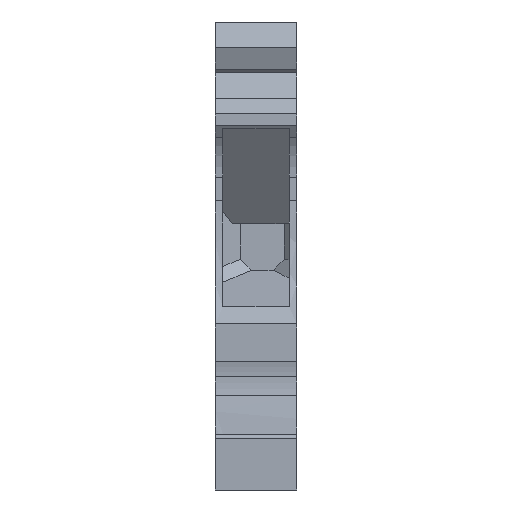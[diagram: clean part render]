
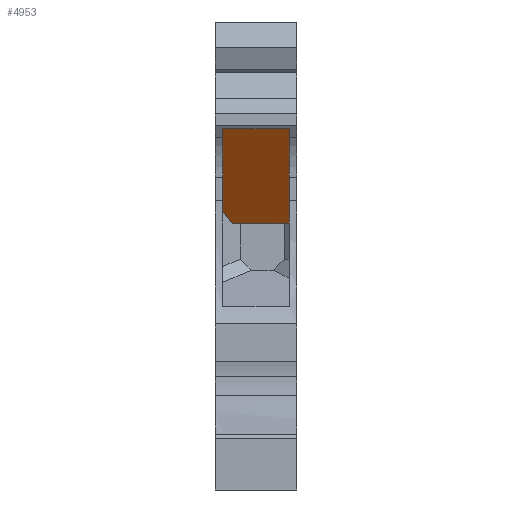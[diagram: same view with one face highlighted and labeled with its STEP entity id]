
A CAD part, front view. The second image highlights one B-rep face of the part: STEP entity #4953.
In plain terms, the highlighted planar face has unit normal (0, -0.791, -0.612).
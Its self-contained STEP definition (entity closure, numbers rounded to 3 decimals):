
#1767=CARTESIAN_POINT('',(0.75,2.395,36.172));
#1768=VERTEX_POINT('',#1767);
#1775=CARTESIAN_POINT('',(7.4,2.395,36.172));
#1776=VERTEX_POINT('',#1775);
#1777=CARTESIAN_POINT('',(0.75,2.395,36.172));
#1778=DIRECTION('',(1.,-0.,-0.));
#1779=VECTOR('',#1778,6.65);
#1780=LINE('',#1777,#1779);
#1781=EDGE_CURVE('',#1768,#1776,#1780,.T.);
#1856=CARTESIAN_POINT('',(0.75,8.8,27.894));
#1857=VERTEX_POINT('',#1856);
#1863=CARTESIAN_POINT('',(0.75,8.8,27.894));
#1864=CARTESIAN_POINT('',(0.75,2.395,36.172));
#1865=B_SPLINE_CURVE_WITH_KNOTS('',1,(#1863,#1864),.UNSPECIFIED.,.F.,.F.,(2,2),(0.,10.467),.UNSPECIFIED.);
#1866=EDGE_CURVE('',#1857,#1768,#1865,.T.);
#4678=CARTESIAN_POINT('',(7.4,9.65,26.795));
#4679=VERTEX_POINT('',#4678);
#4705=CARTESIAN_POINT('',(7.4,9.65,26.795));
#4706=DIRECTION('',(0.,-0.612,0.791));
#4707=VECTOR('',#4706,11.856);
#4708=LINE('',#4705,#4707);
#4709=EDGE_CURVE('',#4679,#1776,#4708,.T.);
#4923=CARTESIAN_POINT('',(0.75,0.245,38.951));
#4924=DIRECTION('',(0.,0.791,0.612));
#4925=DIRECTION('',(-1.,0.,0.));
#4926=AXIS2_PLACEMENT_3D('',#4923,#4924,#4925);
#4927=PLANE('',#4926);
#4928=CARTESIAN_POINT('',(7.3,9.75,26.666));
#4929=VERTEX_POINT('',#4928);
#4930=CARTESIAN_POINT('',(7.4,9.65,26.795));
#4931=CARTESIAN_POINT('',(7.3,9.75,26.666));
#4932=B_SPLINE_CURVE_WITH_KNOTS('',1,(#4930,#4931),.UNSPECIFIED.,.F.,.F.,(2,2),(0.,0.192),.UNSPECIFIED.);
#4933=EDGE_CURVE('',#4679,#4929,#4932,.T.);
#4934=ORIENTED_EDGE('',*,*,#4933,.F.);
#4935=ORIENTED_EDGE('',*,*,#4709,.T.);
#4936=ORIENTED_EDGE('',*,*,#1781,.F.);
#4937=ORIENTED_EDGE('',*,*,#1866,.F.);
#4938=CARTESIAN_POINT('',(1.7,9.75,26.666));
#4939=VERTEX_POINT('',#4938);
#4940=CARTESIAN_POINT('',(1.7,9.75,26.666));
#4941=CARTESIAN_POINT('',(0.75,8.8,27.894));
#4942=B_SPLINE_CURVE_WITH_KNOTS('',1,(#4940,#4941),.UNSPECIFIED.,.F.,.F.,(2,2),(0.,1.82),.UNSPECIFIED.);
#4943=EDGE_CURVE('',#4939,#1857,#4942,.T.);
#4944=ORIENTED_EDGE('',*,*,#4943,.F.);
#4945=CARTESIAN_POINT('',(7.3,9.75,26.666));
#4946=DIRECTION('',(-1.,0.,0.));
#4947=VECTOR('',#4946,5.6);
#4948=LINE('',#4945,#4947);
#4949=EDGE_CURVE('',#4929,#4939,#4948,.T.);
#4950=ORIENTED_EDGE('',*,*,#4949,.F.);
#4951=EDGE_LOOP('',(#4934,#4935,#4936,#4937,#4944,#4950));
#4952=FACE_BOUND('',#4951,.T.);
#4953=ADVANCED_FACE('',(#4952),#4927,.F.);
